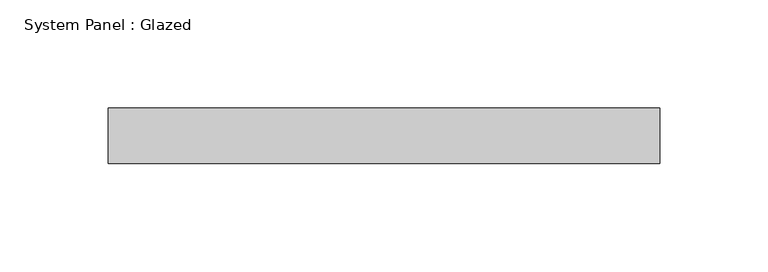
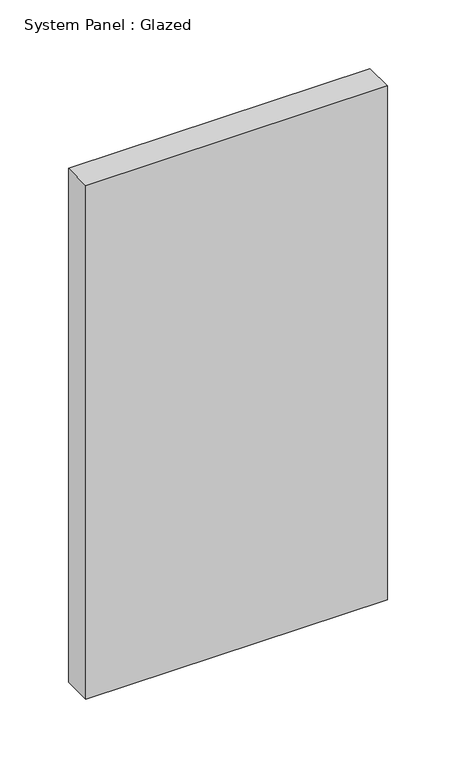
"""IFC4 building model written with IfcOpenShell, lengths in millimetres: plate geometry, System Panel : Glazed."""

from ifc_helpers import new_model, si_unit, origin, origin_with_axes, place, context, project, spatial, polyline, outline, extrude, source, transform, mapped, element, save


def system_panel_glazed_9007666c(model_context):
    return source(origin(), model_context, "Body", "SweptSolid", [
        extrude(outline(polyline([(126.9999998, -44.45), (-126.9999998, -44.45), (-126.9999998, -19.05), (126.9999998, -19.05), (126.9999998, -44.45)])), origin_with_axes(), (0.0, 0.0, 1.0), 457.2),
    ])


if __name__ == "__main__":
    model = new_model("IFC4")
    model_context = context("Model", 3, world=origin())
    ifc_project = project(units=[si_unit("LENGTHUNIT", "METRE", prefix="MILLI")], contexts=[model_context])
    site = spatial("IfcSite", under=ifc_project)
    building = spatial("IfcBuilding", under=site)
    placement = place(None, origin())
    system_panel_glazed_shape = system_panel_glazed_9007666c(model_context)
    element("IfcPlate", 1, ObjectType="System Panel : Glazed", at=placement, inside=building, context=model_context, shape_type="MappedRepresentation", body=[
        mapped(system_panel_glazed_shape, transform((0.0, 0.0, 0.0), x_axis=(1.0, 0.0, 0.0), y_axis=(0.0, 1.0, 0.0), z_axis=(0.0, 0.0, 1.0))),
    ])
    save(model, "model.ifc")
